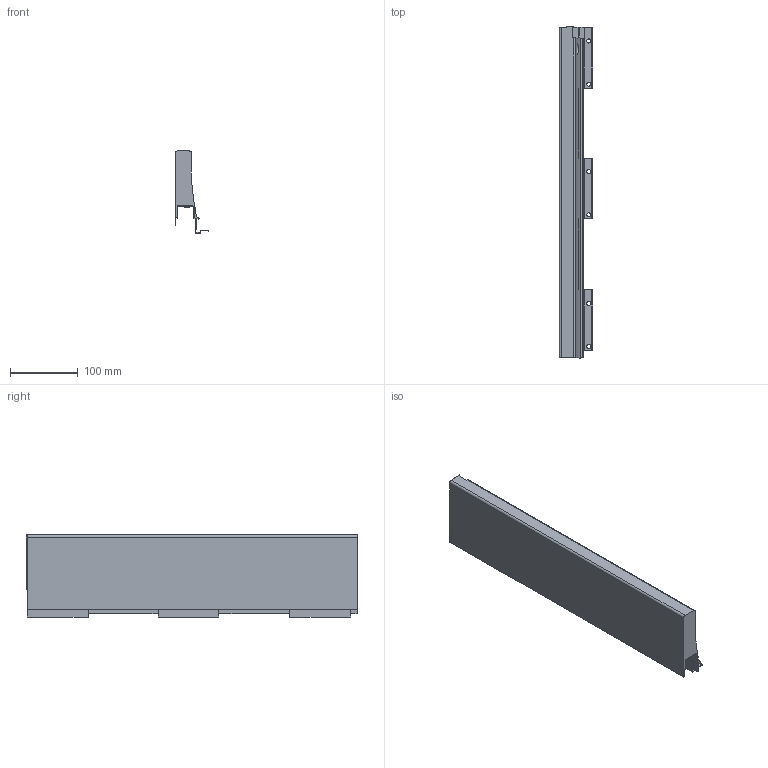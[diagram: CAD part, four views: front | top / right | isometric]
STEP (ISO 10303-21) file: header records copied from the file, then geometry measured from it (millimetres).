
FILE_DESCRIPTION (( 'STEP AP214' ), '1' );
FILE_NAME ('_XP Agantis Dekorseite H127 NL500 LI.step', '2010-07-08T06:22:15', ( 'grass' ), ( '' ), 'SwSTEP 2.0', 'SolidWorks 2010', '' );
FILE_SCHEMA (( 'AUTOMOTIVE_DESIGN' ));
Length unit declared in the file: millimetre
Products named in the file (1): _XP Agantis Dekorseite H127 NL500 LI
Bounding box: 50.01 x 491.5 x 121.5 mm (x, y, z)
Volume: 1071923.5 mm3; surface area: 197668 mm2
Topology: 1 solids, 1 shells, 147 faces, 427 edges, 279 vertices
Faces by surface type: plane 118, cylinder 29
Entity records: 4935 total; most frequent: CARTESIAN_POINT 941, ORIENTED_EDGE 854, DIRECTION 778, EDGE_CURVE 427, LINE 368, VECTOR 368, VERTEX_POINT 279, AXIS2_PLACEMENT_3D 205
